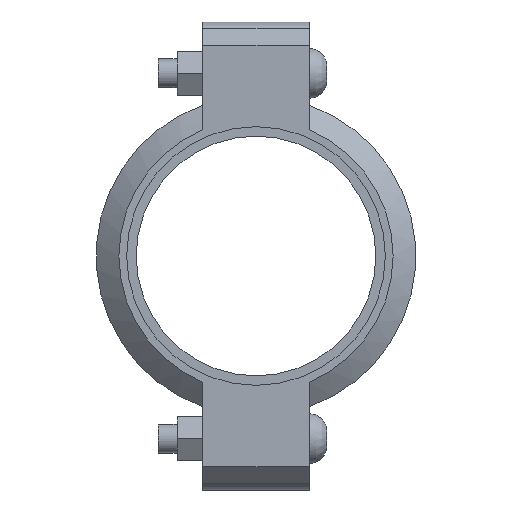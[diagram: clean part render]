
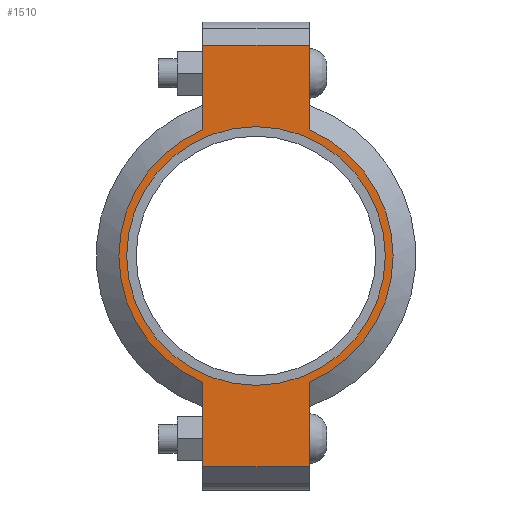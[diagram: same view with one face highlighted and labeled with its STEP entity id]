
A CAD part, left-side view. The second image highlights one B-rep face of the part: STEP entity #1510.
In plain terms, the highlighted planar face has unit normal (-1, 0, 0) as drawn and (0, 0, 1) by its records, which use the part's own axes.
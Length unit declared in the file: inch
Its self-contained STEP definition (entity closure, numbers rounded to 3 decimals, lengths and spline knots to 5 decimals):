
#134=LINE('',#2644,#227);
#142=LINE('',#2680,#235);
#149=LINE('',#2701,#242);
#158=LINE('',#2733,#251);
#159=LINE('',#2737,#252);
#160=LINE('',#2739,#253);
#227=VECTOR('',#2164,0.3937);
#235=VECTOR('',#2180,0.3937);
#242=VECTOR('',#2199,0.3937);
#251=VECTOR('',#2224,0.3937);
#252=VECTOR('',#2229,0.3937);
#253=VECTOR('',#2230,0.3937);
#309=FACE_BOUND('',#487,.T.);
#381=FACE_OUTER_BOUND('',#486,.T.);
#486=EDGE_LOOP('',(#1251,#1252,#1253,#1254,#1255,#1256,#1257,#1258));
#487=EDGE_LOOP('',(#1259));
#559=CIRCLE('',#1738,2.7815);
#585=CIRCLE('',#1797,2.95);
#586=CIRCLE('',#1798,2.95);
#651=VERTEX_POINT('',#2460);
#694=VERTEX_POINT('',#2641);
#695=VERTEX_POINT('',#2643);
#706=VERTEX_POINT('',#2675);
#707=VERTEX_POINT('',#2679);
#714=VERTEX_POINT('',#2698);
#715=VERTEX_POINT('',#2700);
#725=VERTEX_POINT('',#2736);
#726=VERTEX_POINT('',#2738);
#807=EDGE_CURVE('',#651,#651,#559,.T.);
#868=EDGE_CURVE('',#695,#694,#134,.T.);
#882=EDGE_CURVE('',#707,#706,#142,.T.);
#892=EDGE_CURVE('',#715,#714,#149,.T.);
#907=EDGE_CURVE('',#707,#694,#158,.T.);
#908=EDGE_CURVE('',#706,#715,#585,.T.);
#909=EDGE_CURVE('',#725,#714,#159,.T.);
#910=EDGE_CURVE('',#725,#726,#160,.T.);
#911=EDGE_CURVE('',#726,#695,#586,.T.);
#1251=ORIENTED_EDGE('',*,*,#907,.F.);
#1252=ORIENTED_EDGE('',*,*,#882,.T.);
#1253=ORIENTED_EDGE('',*,*,#908,.T.);
#1254=ORIENTED_EDGE('',*,*,#892,.T.);
#1255=ORIENTED_EDGE('',*,*,#909,.F.);
#1256=ORIENTED_EDGE('',*,*,#910,.T.);
#1257=ORIENTED_EDGE('',*,*,#911,.T.);
#1258=ORIENTED_EDGE('',*,*,#868,.T.);
#1259=ORIENTED_EDGE('',*,*,#807,.T.);
#1352=PLANE('',#1796);
#1510=ADVANCED_FACE('',(#381,#309),#1352,.T.);
#1738=AXIS2_PLACEMENT_3D('',#2462,#2040,#2041);
#1796=AXIS2_PLACEMENT_3D('',#2734,#2225,#2226);
#1797=AXIS2_PLACEMENT_3D('',#2735,#2227,#2228);
#1798=AXIS2_PLACEMENT_3D('',#2740,#2231,#2232);
#2040=DIRECTION('center_axis',(0.,0.,-1.));
#2041=DIRECTION('ref_axis',(1.,0.,0.));
#2164=DIRECTION('',(1.,0.,0.));
#2180=DIRECTION('',(-1.,0.,0.));
#2199=DIRECTION('',(-1.,0.,0.));
#2224=DIRECTION('',(0.,-1.,0.));
#2225=DIRECTION('center_axis',(0.,0.,1.));
#2226=DIRECTION('ref_axis',(-1.,0.,0.));
#2227=DIRECTION('center_axis',(0.,0.,1.));
#2228=DIRECTION('ref_axis',(1.,0.,0.));
#2229=DIRECTION('',(0.,1.,0.));
#2230=DIRECTION('',(1.,0.,0.));
#2231=DIRECTION('center_axis',(0.,0.,1.));
#2232=DIRECTION('ref_axis',(1.,0.,0.));
#2460=CARTESIAN_POINT('',(-2.7815,0.,1.065));
#2462=CARTESIAN_POINT('Origin',(0.,0.,1.065));
#2641=CARTESIAN_POINT('',(4.535,-1.15,1.065));
#2643=CARTESIAN_POINT('',(2.71662,-1.15,1.065));
#2644=CARTESIAN_POINT('',(5.035,-1.15,1.065));
#2675=CARTESIAN_POINT('',(2.71662,1.15,1.065));
#2679=CARTESIAN_POINT('',(4.535,1.15,1.065));
#2680=CARTESIAN_POINT('',(-5.035,1.15,1.065));
#2698=CARTESIAN_POINT('',(-4.535,1.15,1.065));
#2700=CARTESIAN_POINT('',(-2.71662,1.15,1.065));
#2701=CARTESIAN_POINT('',(-5.035,1.15,1.065));
#2733=CARTESIAN_POINT('',(4.535,-0.575,1.065));
#2734=CARTESIAN_POINT('Origin',(0.,0.,
1.065));
#2735=CARTESIAN_POINT('Origin',(0.,0.,1.065));
#2736=CARTESIAN_POINT('',(-4.535,-1.15,1.065));
#2737=CARTESIAN_POINT('',(-4.535,0.575,1.065));
#2738=CARTESIAN_POINT('',(-2.71662,-1.15,1.065));
#2739=CARTESIAN_POINT('',(5.035,-1.15,1.065));
#2740=CARTESIAN_POINT('Origin',(0.,0.,1.065));
